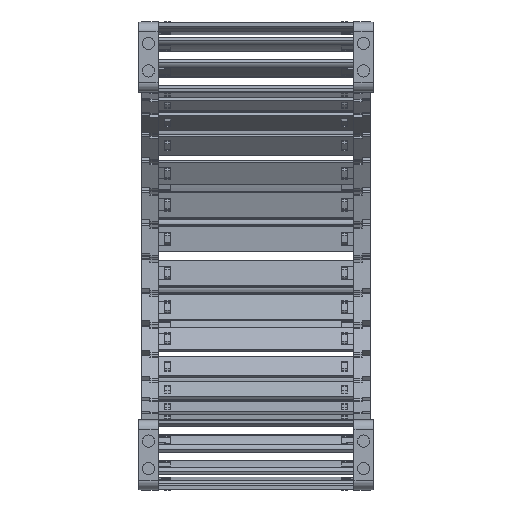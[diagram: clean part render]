
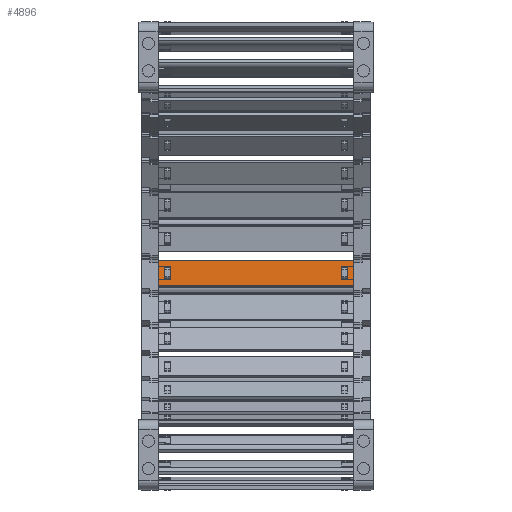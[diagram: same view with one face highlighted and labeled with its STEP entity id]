
A CAD part, left-side view. The second image highlights one B-rep face of the part: STEP entity #4896.
In plain terms, the highlighted planar face has unit normal (-0.995, 0, 0.104) as drawn and (0, 1, 0) by its records, which use the part's own axes.
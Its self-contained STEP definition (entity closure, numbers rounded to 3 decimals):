
#4022=DIRECTION('',(0.,0.,1.));
#4023=VECTOR('',#4022,15.8);
#4024=CARTESIAN_POINT('',(105.74,1.5,-7.9));
#4025=LINE('',#4024,#4023);
#4029=DIRECTION('',(-1.,0.,0.));
#4030=VECTOR('',#4029,120.5);
#4031=CARTESIAN_POINT('',(105.74,1.5,7.9));
#4032=LINE('',#4031,#4030);
#4036=DIRECTION('',(0.,0.,-1.));
#4037=VECTOR('',#4036,15.8);
#4038=CARTESIAN_POINT('',(-14.76,1.5,7.9));
#4039=LINE('',#4038,#4037);
#4043=DIRECTION('',(1.,0.,0.));
#4044=VECTOR('',#4043,3.648);
#4045=CARTESIAN_POINT('',(98.122,1.5,4.075));
#4046=LINE('',#4045,#4044);
#4050=DIRECTION('',(0.,0.,-1.));
#4051=VECTOR('',#4050,8.15);
#4052=CARTESIAN_POINT('',(101.77,1.5,4.075));
#4053=LINE('',#4052,#4051);
#4057=DIRECTION('',(-1.,0.,0.));
#4058=VECTOR('',#4057,3.648);
#4059=CARTESIAN_POINT('',(101.77,1.5,-4.075));
#4060=LINE('',#4059,#4058);
#4064=DIRECTION('',(0.,0.,-1.));
#4065=VECTOR('',#4064,8.15);
#4066=CARTESIAN_POINT('',(-7.142,1.5,4.075));
#4067=LINE('',#4066,#4065);
#4071=DIRECTION('',(-1.,0.,0.));
#4072=VECTOR('',#4071,3.648);
#4073=CARTESIAN_POINT('',(-7.142,1.5,-4.075));
#4074=LINE('',#4073,#4072);
#4078=DIRECTION('',(0.,0.,1.));
#4079=VECTOR('',#4078,8.15);
#4080=CARTESIAN_POINT('',(-10.79,1.5,-4.075));
#4081=LINE('',#4080,#4079);
#4085=DIRECTION('',(1.,0.,0.));
#4086=VECTOR('',#4085,3.648);
#4087=CARTESIAN_POINT('',(-10.79,1.5,4.075));
#4088=LINE('',#4087,#4086);
#4099=DIRECTION('',(-1.,0.,0.));
#4100=VECTOR('',#4099,120.5);
#4101=CARTESIAN_POINT('',(105.74,1.5,-7.9));
#4102=LINE('',#4101,#4100);
#4307=DIRECTION('',(0.,0.,-1.));
#4308=VECTOR('',#4307,8.15);
#4309=CARTESIAN_POINT('',(98.122,1.5,4.075));
#4310=LINE('',#4309,#4308);
#4606=CARTESIAN_POINT('',(101.77,1.5,4.075));
#4607=VERTEX_POINT('',#4606);
#4608=CARTESIAN_POINT('',(98.122,1.5,4.075));
#4609=VERTEX_POINT('',#4608);
#4650=CARTESIAN_POINT('',(98.122,1.5,-4.075));
#4651=VERTEX_POINT('',#4650);
#4652=CARTESIAN_POINT('',(101.77,1.5,-4.075));
#4653=VERTEX_POINT('',#4652);
#4654=CARTESIAN_POINT('',(105.74,1.5,7.9));
#4656=VERTEX_POINT('',#4654);
#4658=CARTESIAN_POINT('',(105.74,1.5,-7.9));
#4659=VERTEX_POINT('',#4658);
#4682=CARTESIAN_POINT('',(-7.142,1.5,4.075));
#4683=CARTESIAN_POINT('',(-7.142,1.5,-4.075));
#4684=VERTEX_POINT('',#4682);
#4685=VERTEX_POINT('',#4683);
#4686=CARTESIAN_POINT('',(-10.79,1.5,-4.075));
#4687=VERTEX_POINT('',#4686);
#4688=CARTESIAN_POINT('',(-10.79,1.5,4.075));
#4689=VERTEX_POINT('',#4688);
#4690=CARTESIAN_POINT('',(-14.76,1.5,7.9));
#4691=VERTEX_POINT('',#4690);
#4694=CARTESIAN_POINT('',(-14.76,1.5,-7.9));
#4695=VERTEX_POINT('',#4694);
#4865=CARTESIAN_POINT('',(137.48,1.5,10.061));
#4866=DIRECTION('',(0.,-1.,0.));
#4867=DIRECTION('',(0.,0.,-1.));
#4868=AXIS2_PLACEMENT_3D('',#4865,#4866,#4867);
#4869=PLANE('',#4868);
#4870=ORIENTED_EDGE('',*,*,#4768,.T.);
#4871=ORIENTED_EDGE('',*,*,#4806,.T.);
#4872=ORIENTED_EDGE('',*,*,#4831,.T.);
#4874=ORIENTED_EDGE('',*,*,#4873,.F.);
#4875=EDGE_LOOP('',(#4870,#4871,#4872,#4874));
#4876=FACE_OUTER_BOUND('',#4875,.F.);
#4878=ORIENTED_EDGE('',*,*,#4877,.F.);
#4879=ORIENTED_EDGE('',*,*,#4707,.T.);
#4881=ORIENTED_EDGE('',*,*,#4880,.T.);
#4883=ORIENTED_EDGE('',*,*,#4882,.T.);
#4884=EDGE_LOOP('',(#4878,#4879,#4881,#4883));
#4885=FACE_BOUND('',#4884,.F.);
#4887=ORIENTED_EDGE('',*,*,#4886,.T.);
#4889=ORIENTED_EDGE('',*,*,#4888,.T.);
#4891=ORIENTED_EDGE('',*,*,#4890,.T.);
#4893=ORIENTED_EDGE('',*,*,#4892,.T.);
#4894=EDGE_LOOP('',(#4887,#4889,#4891,#4893));
#4895=FACE_BOUND('',#4894,.F.);
#4896=ADVANCED_FACE('',(#4876,#4885,#4895),#4869,.F.);
#4707=EDGE_CURVE('',#4609,#4607,#4046,.T.);
#4768=EDGE_CURVE('',#4659,#4656,#4025,.T.);
#4806=EDGE_CURVE('',#4656,#4691,#4032,.T.);
#4831=EDGE_CURVE('',#4691,#4695,#4039,.T.);
#4873=EDGE_CURVE('',#4659,#4695,#4102,.T.);
#4877=EDGE_CURVE('',#4609,#4651,#4310,.T.);
#4880=EDGE_CURVE('',#4607,#4653,#4053,.T.);
#4882=EDGE_CURVE('',#4653,#4651,#4060,.T.);
#4886=EDGE_CURVE('',#4684,#4685,#4067,.T.);
#4888=EDGE_CURVE('',#4685,#4687,#4074,.T.);
#4890=EDGE_CURVE('',#4687,#4689,#4081,.T.);
#4892=EDGE_CURVE('',#4689,#4684,#4088,.T.);
